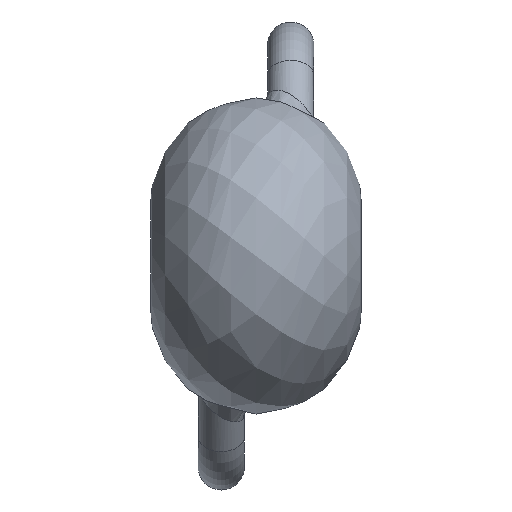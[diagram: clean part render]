
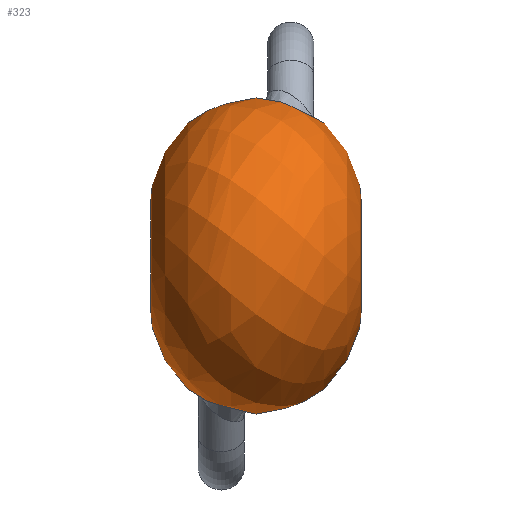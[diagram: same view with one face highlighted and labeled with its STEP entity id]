
A CAD part, left-side view. The second image highlights one B-rep face of the part: STEP entity #323.
In plain terms, the highlighted free-form (B-spline) face has degree [2, 2] with [7, 9] control points.
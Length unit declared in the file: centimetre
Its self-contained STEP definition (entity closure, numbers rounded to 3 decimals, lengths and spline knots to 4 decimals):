
#149=CARTESIAN_POINT('',(0.2105,0.0009,-0.3038));
#150=VERTEX_POINT('',#149);
#180=CARTESIAN_POINT('',(0.2105,0.0008,-0.3039));
#181=CARTESIAN_POINT('',(0.1877,0.0023,-0.32));
#182=CARTESIAN_POINT('',(0.1569,0.0163,-0.3395));
#183=CARTESIAN_POINT('',(0.111,0.067,-0.3609));
#184=CARTESIAN_POINT('',(0.0924,0.1291,-0.3557));
#185=CARTESIAN_POINT('',(0.1078,0.1874,-0.3197));
#186=CARTESIAN_POINT('',(0.1369,0.2173,-0.2836));
#187=CARTESIAN_POINT('',(0.1825,0.2259,-0.2468));
#188=CARTESIAN_POINT('',(0.2199,0.2146,-0.2272));
#189=CARTESIAN_POINT('',(0.242,0.2016,-0.2181));
#190=CARTESIAN_POINT('',(0.2699,0.1815,-0.2081));
#191=CARTESIAN_POINT('',(0.3098,0.1268,-0.2021));
#192=CARTESIAN_POINT('',(0.3026,0.0467,-0.2282));
#193=CARTESIAN_POINT('',(0.2559,0.0058,-0.2701));
#194=CARTESIAN_POINT('',(0.2257,-0.0002,-0.2931));
#195=CARTESIAN_POINT('',(0.2105,0.0008,-0.3039));
#196=B_SPLINE_CURVE_WITH_KNOTS('',3,(#180,#181,#182,#183,#184,#185,#186,#187,#188,#189,#190,#191,#192,#193,#194,#195),.UNSPECIFIED.,.T.,.U.,(4,1,1,1,1,1,1,1,1,1,1,1,1,4),(0.0,0.0384,0.0512,0.1023,0.1279,0.1535,0.179,0.2046,0.211,0.2174,0.2558,0.3069,0.3325,0.3581),.UNSPECIFIED.);
#197=EDGE_CURVE('',#150,#150,#196,.T.);
#202=CARTESIAN_POINT('',(0.,-0.164,0.));
#203=CARTESIAN_POINT('',(-0.1817,-0.2689,0.));
#204=CARTESIAN_POINT('',(-0.3165,-0.1082,0.));
#205=CARTESIAN_POINT('',(-0.4514,0.0525,0.));
#206=CARTESIAN_POINT('',(-0.3165,0.2132,0.));
#207=CARTESIAN_POINT('',(-0.1817,0.3739,0.));
#208=CARTESIAN_POINT('',(0.,0.269,0.));
#209=CARTESIAN_POINT('',(0.,-0.164,0.));
#210=CARTESIAN_POINT('',(-0.1817,-0.2689,-0.1817));
#211=CARTESIAN_POINT('',(-0.3165,-0.1082,-0.3165));
#212=CARTESIAN_POINT('',(-0.4514,0.0525,-0.4514));
#213=CARTESIAN_POINT('',(-0.3165,0.2132,-0.3165));
#214=CARTESIAN_POINT('',(-0.1817,0.3739,-0.1817));
#215=CARTESIAN_POINT('',(0.,0.269,0.));
#216=CARTESIAN_POINT('',(0.,-0.164,0.));
#217=CARTESIAN_POINT('',(0.,-0.2689,-0.1817));
#218=CARTESIAN_POINT('',(0.,-0.1082,-0.3165));
#219=CARTESIAN_POINT('',(0.,0.0525,-0.4514));
#220=CARTESIAN_POINT('',(0.,0.2132,-0.3165));
#221=CARTESIAN_POINT('',(0.,0.3739,-0.1817));
#222=CARTESIAN_POINT('',(0.,0.269,0.));
#223=CARTESIAN_POINT('',(0.,-0.164,0.));
#224=CARTESIAN_POINT('',(0.1817,-0.2689,-0.1817));
#225=CARTESIAN_POINT('',(0.3165,-0.1082,-0.3165));
#226=CARTESIAN_POINT('',(0.4514,0.0525,-0.4514));
#227=CARTESIAN_POINT('',(0.3165,0.2132,-0.3165));
#228=CARTESIAN_POINT('',(0.1817,0.3739,-0.1817));
#229=CARTESIAN_POINT('',(0.,0.269,0.));
#230=CARTESIAN_POINT('',(0.,-0.164,0.));
#231=CARTESIAN_POINT('',(0.1817,-0.2689,0.));
#232=CARTESIAN_POINT('',(0.3165,-0.1082,0.));
#233=CARTESIAN_POINT('',(0.4514,0.0525,0.));
#234=CARTESIAN_POINT('',(0.3165,0.2132,0.));
#235=CARTESIAN_POINT('',(0.1817,0.3739,0.));
#236=CARTESIAN_POINT('',(0.,0.269,0.));
#237=CARTESIAN_POINT('',(0.,-0.164,0.));
#238=CARTESIAN_POINT('',(0.1817,-0.2689,0.1817));
#239=CARTESIAN_POINT('',(0.3165,-0.1082,0.3165));
#240=CARTESIAN_POINT('',(0.4514,0.0525,0.4514));
#241=CARTESIAN_POINT('',(0.3165,0.2132,0.3165));
#242=CARTESIAN_POINT('',(0.1817,0.3739,0.1817));
#243=CARTESIAN_POINT('',(0.,0.269,0.));
#244=CARTESIAN_POINT('',(0.,-0.164,0.));
#245=CARTESIAN_POINT('',(0.,-0.2689,0.1817));
#246=CARTESIAN_POINT('',(0.,-0.1082,0.3165));
#247=CARTESIAN_POINT('',(0.,0.0525,0.4514));
#248=CARTESIAN_POINT('',(0.,0.2132,0.3165));
#249=CARTESIAN_POINT('',(0.,0.3739,0.1817));
#250=CARTESIAN_POINT('',(0.,0.269,0.));
#251=CARTESIAN_POINT('',(0.,-0.164,0.));
#252=CARTESIAN_POINT('',(-0.1817,-0.2689,0.1817));
#253=CARTESIAN_POINT('',(-0.3165,-0.1082,0.3165));
#254=CARTESIAN_POINT('',(-0.4514,0.0525,0.4514));
#255=CARTESIAN_POINT('',(-0.3165,0.2132,0.3165));
#256=CARTESIAN_POINT('',(-0.1817,0.3739,0.1817));
#257=CARTESIAN_POINT('',(0.,0.269,0.));
#258=CARTESIAN_POINT('',(0.,-0.164,0.));
#259=CARTESIAN_POINT('',(-0.1817,-0.2689,0.));
#260=CARTESIAN_POINT('',(-0.3165,-0.1082,0.));
#261=CARTESIAN_POINT('',(-0.4514,0.0525,0.));
#262=CARTESIAN_POINT('',(-0.3165,0.2132,0.));
#263=CARTESIAN_POINT('',(-0.1817,0.3739,0.));
#264=CARTESIAN_POINT('',(0.,0.269,0.));
#272=(BOUNDED_SURFACE()B_SPLINE_SURFACE(2,2,((#202,#209,#216,#223,#230,#237,#244,#251,#258),(#203,#210,#217,#224,#231,#238,#245,#252,#259),(#204,#211,#218,#225,#232,#239,#246,#253,#260),(#205,#212,#219,#226,#233,#240,#247,#254,#261),(#206,#213,#220,#227,#234,#241,#248,#255,#262),(#207,#214,#221,#228,#235,#242,#249,#256,#263),(#208,#215,#222,#229,#236,#243,#250,#257,#264)),.UNSPECIFIED.,.F.,.T.,.U.)B_SPLINE_SURFACE_WITH_KNOTS((3,2,2,3),(3,2,2,2,3),(-2.0944,-0.6981,0.6981,2.0944),(0.0,1.5708,3.1416,4.7124,6.2832),.UNSPECIFIED.)GEOMETRIC_REPRESENTATION_ITEM()RATIONAL_B_SPLINE_SURFACE(((1.0,0.707,1.0,0.707,1.0,0.707,1.0,0.707,1.0),(0.766,0.542,0.766,0.542,0.766,0.542,0.766,0.542,0.766),(1.0,0.707,1.0,0.707,1.0,0.707,1.0,0.707,1.0),(0.766,0.542,0.766,0.542,0.766,0.542,0.766,0.542,0.766),(1.0,0.707,1.0,0.707,1.0,0.707,1.0,0.707,1.0),(0.766,0.542,0.766,0.542,0.766,0.542,0.766,0.542,0.766),(1.0,0.707,1.0,0.707,1.0,0.707,1.0,0.707,1.0)))REPRESENTATION_ITEM('')SURFACE());
#273=CARTESIAN_POINT('',(0.1732,-0.1171,0.2555));
#274=VERTEX_POINT('',#273);
#275=CARTESIAN_POINT('',(0.1732,-0.1171,0.2555));
#276=CARTESIAN_POINT('',(0.1887,-0.1177,0.2444));
#277=CARTESIAN_POINT('',(0.2221,-0.1108,0.2251));
#278=CARTESIAN_POINT('',(0.2621,-0.0838,0.2104));
#279=CARTESIAN_POINT('',(0.2938,-0.0425,0.2048));
#280=CARTESIAN_POINT('',(0.3077,0.0078,0.2114));
#281=CARTESIAN_POINT('',(0.2956,0.0597,0.2332));
#282=CARTESIAN_POINT('',(0.2646,0.0943,0.263));
#283=CARTESIAN_POINT('',(0.2207,0.1081,0.2972));
#284=CARTESIAN_POINT('',(0.1739,0.0984,0.3292));
#285=CARTESIAN_POINT('',(0.1336,0.0674,0.3517));
#286=CARTESIAN_POINT('',(0.102,0.0144,0.3608));
#287=CARTESIAN_POINT('',(0.0965,-0.0327,0.3486));
#288=CARTESIAN_POINT('',(0.1031,-0.0618,0.3318));
#289=CARTESIAN_POINT('',(0.1102,-0.0824,0.3178));
#290=CARTESIAN_POINT('',(0.1292,-0.1075,0.2918));
#291=CARTESIAN_POINT('',(0.1577,-0.1166,0.2666));
#292=CARTESIAN_POINT('',(0.1732,-0.1171,0.2555));
#293=B_SPLINE_CURVE_WITH_KNOTS('',3,(#275,#276,#277,#278,#279,#280,#281,#282,#283,#284,#285,#286,#287,#288,#289,#290,#291,#292),.UNSPECIFIED.,.T.,.U.,(4,1,1,1,1,1,1,1,1,1,1,1,1,1,1,4),(0.0,0.0256,0.0511,0.0703,0.1023,0.1278,0.1534,0.179,0.2045,0.2301,0.2557,0.294,0.3004,0.3068,0.3324,0.358),.UNSPECIFIED.);
#294=EDGE_CURVE('',#274,#274,#293,.T.);
#295=ORIENTED_EDGE('',*,*,#294,.F.);
#296=EDGE_LOOP('',(#295));
#297=FACE_OUTER_BOUND('',#296,.T.);
#298=CARTESIAN_POINT('',(0.125,-0.1975,0.));
#299=VERTEX_POINT('',#298);
#300=CARTESIAN_POINT('',(0.0,-0.1975,0.0));
#301=DIRECTION('',(0.0,1.0,0.0));
#302=DIRECTION('',(-1.0,0.0,0.0));
#303=AXIS2_PLACEMENT_3D('',#300,#301,#302);
#304=CIRCLE('',#303,0.125);
#305=EDGE_CURVE('',#299,#299,#304,.T.);
#306=ORIENTED_EDGE('',*,*,#305,.T.);
#307=EDGE_LOOP('',(#306));
#308=FACE_BOUND('',#307,.T.);
#309=CARTESIAN_POINT('',(0.125,0.3025,0.));
#310=VERTEX_POINT('',#309);
#311=CARTESIAN_POINT('',(0.0,0.3025,0.0));
#312=DIRECTION('',(0.0,-1.0,0.0));
#313=DIRECTION('',(-1.0,0.0,0.0));
#314=AXIS2_PLACEMENT_3D('',#311,#312,#313);
#315=CIRCLE('',#314,0.125);
#316=EDGE_CURVE('',#310,#310,#315,.T.);
#317=ORIENTED_EDGE('',*,*,#316,.T.);
#318=EDGE_LOOP('',(#317));
#319=FACE_BOUND('',#318,.T.);
#320=ORIENTED_EDGE('',*,*,#197,.F.);
#321=EDGE_LOOP('',(#320));
#322=FACE_BOUND('',#321,.T.);
#323=ADVANCED_FACE('',(#297,#308,#319,#322),#272,.T.);
